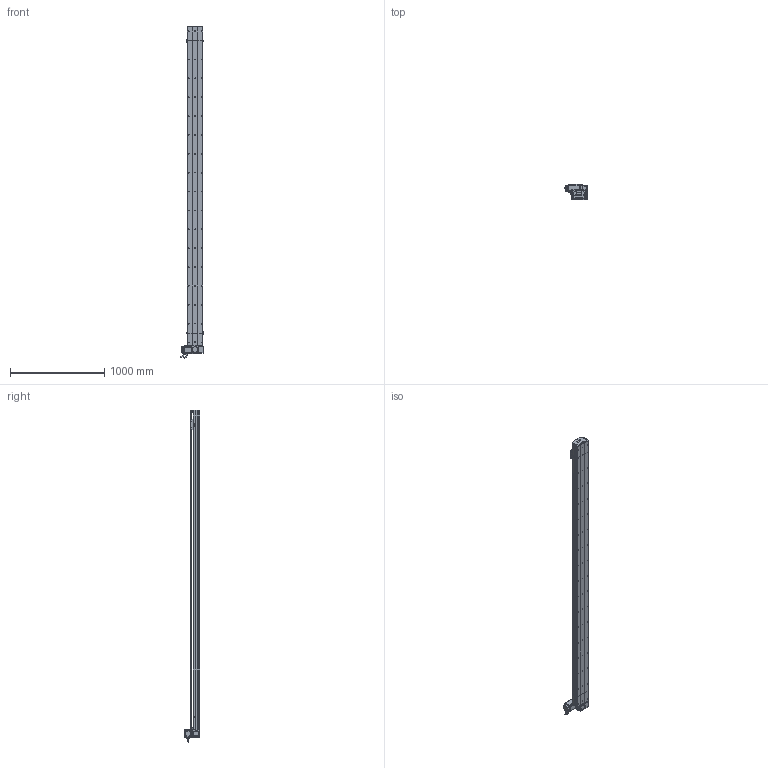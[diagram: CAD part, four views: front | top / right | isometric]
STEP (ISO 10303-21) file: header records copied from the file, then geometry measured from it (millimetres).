
FILE_DESCRIPTION (( 'STEP AP214' ), '1' );
FILE_NAME ('D17 TBN LT S3100.STEP', '2010-06-30T13:34:16', ( 'Conseil Régional Haute-Normandie' ), ( 'Conseil Régional Haute-Normandie' ), 'SwSTEP 2.0', 'SolidWorks 2010', '' );
FILE_SCHEMA (( 'AUTOMOTIVE_DESIGN' ));
Length unit declared in the file: millimetre
Products named in the file (40): course 3100 D17B_Default; Couroie+ rail D17 Course 3100 ; corp D17B 3100_Default; couvercle D17B course L3100_Default; Head LT D17B_Default; corpl head D17 _Default; couvercle D17B head_Default; plaque de  bout head D17B LT_Default; Arbre+rail head D17B; cache D17_Default; chariot D17 TBN; vis M5 L5_Default; Chariot D17 TBN; Rail D17B; Vis M5 L16-2_Default; poulie head_Default; cache arbre D17_Default; vis M5 L16_Default; Plaque racord D17_Default; vis M5 L70_Default; D17 TBN LT S3100; Conecteur_Default; Conecteur2_Default; codeur 90BLDC125-640; corps 90BLDC125A-640; avant 90BLDC125A-640; Moteur motionking 90BLDC125A-640; Renvoi LT_Default; couroie head D17_Default; tete d''axe poulie D17B; guide D17; vis M5 L12_Default; poulie tail_Default; vis M5 L8 90°_Default; couvercle D17B_Default; plaque de  bout tail D17B_Default; Couroie tail D17B_Default; vis M5 L25_Default; Tail D17B+100_Default; corp tail D17B+100_Default
Assembly tree (66 placements, depth 4):
  D17 TBN LT S3100
    chariot D17 TBN
      guide D17  x2
      Chariot D17 TBN
    Head LT D17B_Default
      poulie head_Default
      couroie head D17_Default
      vis M5 L70_Default  x4
      vis M5 L12_Default  x8
      vis M5 L16_Default  x2
      cache arbre D17_Default
      Vis M5 L16-2_Default  x4
      couvercle D17B head_Default
      vis M5 L5_Default  x4
      Renvoi LT_Default
      Plaque racord D17_Default
      corpl head D17 _Default
      Moteur motionking 90BLDC125A-640
        Conecteur2_Default
        codeur 90BLDC125-640
        corps 90BLDC125A-640
        avant 90BLDC125A-640
        Conecteur_Default
      vis M5 L25_Default  x2
      cache D17_Default  x2
      plaque de  bout head D17B LT_Default
      Arbre+rail head D17B
    course 3100 D17B_Default
      couvercle D17B course L3100_Default
      corp D17B 3100_Default
      Couroie+ rail D17 Course 3100 
    Tail D17B+100_Default
      couvercle D17B_Default
      vis M5 L8 90°_Default  x2
      vis M5 L12_Default  x4
      vis M5 L25_Default  x2
      poulie tail_Default
      corp tail D17B+100_Default
      plaque de  bout tail D17B_Default
      Couroie tail D17B_Default
      Rail D17B
      tete d''axe poulie D17B
Bounding box: 245.2 x 166.15 x 3517.95 mm (x, y, z)
Volume: 19834778.8 mm3; surface area: 5803183 mm2
Topology: 89 solids, 89 shells, 2667 faces, 6887 edges, 4438 vertices
Faces by surface type: plane 1537, cylinder 833, bspline 136, cone 80, torus 77, sphere 4
Entity records: 87117 total; most frequent: CARTESIAN_POINT 25749, ORIENTED_EDGE 10946, DIRECTION 10318, EDGE_CURVE 5473, VERTEX_POINT 3582, VECTOR 3556, LINE 3556, AXIS2_PLACEMENT_3D 3381
